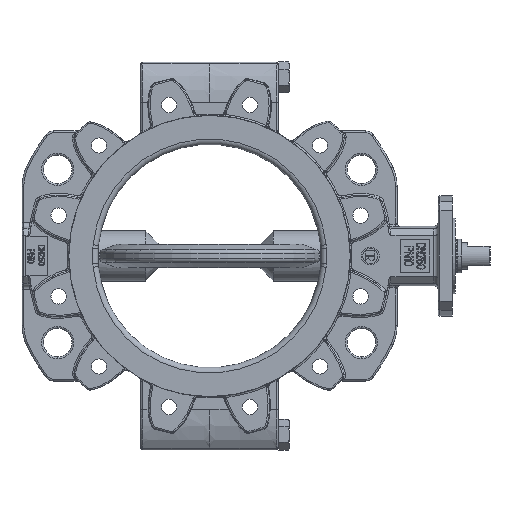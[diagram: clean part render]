
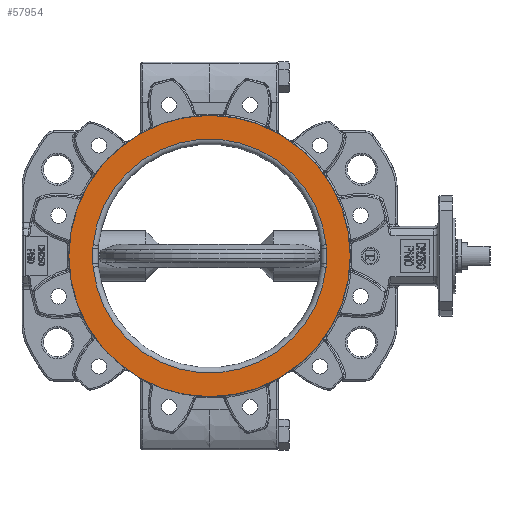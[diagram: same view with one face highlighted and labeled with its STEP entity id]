
A CAD part, front view. The second image highlights one B-rep face of the part: STEP entity #57954.
In plain terms, the highlighted planar face has unit normal (0, -1, 0).
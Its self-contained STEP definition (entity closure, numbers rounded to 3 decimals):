
#4083=CARTESIAN_POINT('',(0.,-34.,0.));
#4084=DIRECTION('',(0.,-1.,0.));
#4085=DIRECTION('',(0.,0.,-1.));
#4086=AXIS2_PLACEMENT_3D('',#4083,#4084,#4085);
#4088=CARTESIAN_POINT('',(0.,-34.,0.));
#4089=DIRECTION('',(0.,1.,0.));
#4090=DIRECTION('',(0.,0.,-1.));
#4091=AXIS2_PLACEMENT_3D('',#4088,#4089,#4090);
#4093=CARTESIAN_POINT('',(0.,-34.,0.));
#4094=DIRECTION('',(0.,1.,0.));
#4095=DIRECTION('',(-0.995,0.,0.096));
#4096=AXIS2_PLACEMENT_3D('',#4093,#4094,#4095);
#4103=CARTESIAN_POINT('',(130.399,-34.,12.536));
#4104=CARTESIAN_POINT('',(130.437,-34.,12.139));
#4105=CARTESIAN_POINT('',(130.5,-34.,11.328));
#4106=CARTESIAN_POINT('',(130.555,-34.,10.066));
#4107=CARTESIAN_POINT('',(130.567,-34.,9.195));
#4108=CARTESIAN_POINT('',(130.567,-34.,8.752));
#4122=DIRECTION('',(0.,0.,-1.));
#4123=VECTOR('',#4122,17.503);
#4124=CARTESIAN_POINT('',(130.567,-34.,8.752));
#4125=LINE('',#4124,#4123);
#4140=CARTESIAN_POINT('',(130.567,-34.,
-8.752));
#4141=CARTESIAN_POINT('',(130.567,-34.,
-9.195));
#4142=CARTESIAN_POINT('',(130.555,-34.,
-10.066));
#4143=CARTESIAN_POINT('',(130.5,-34.,
-11.328));
#4144=CARTESIAN_POINT('',(130.437,-34.,
-12.139));
#4145=CARTESIAN_POINT('',(130.399,-34.,
-12.536));
#4164=CARTESIAN_POINT('',(0.,-34.,0.));
#4165=DIRECTION('',(0.,1.,0.));
#4166=DIRECTION('',(0.995,0.,-0.096));
#4167=AXIS2_PLACEMENT_3D('',#4164,#4165,#4166);
#4436=DIRECTION('',(0.,0.,-1.));
#4437=VECTOR('',#4436,17.503);
#4438=CARTESIAN_POINT('',(-130.567,-34.,
8.752));
#4439=LINE('',#4438,#4437);
#4449=CARTESIAN_POINT('',(-130.399,-34.,
12.536));
#4450=CARTESIAN_POINT('',(-130.437,-34.,
12.139));
#4451=CARTESIAN_POINT('',(-130.5,-34.,
11.328));
#4452=CARTESIAN_POINT('',(-130.555,-34.,
10.066));
#4453=CARTESIAN_POINT('',(-130.567,-34.,
9.195));
#4454=CARTESIAN_POINT('',(-130.567,-34.,
8.752));
#5238=CARTESIAN_POINT('',(-130.567,-34.,
-8.752));
#5239=CARTESIAN_POINT('',(-130.567,-34.,
-9.195));
#5240=CARTESIAN_POINT('',(-130.555,-34.,
-10.066));
#5241=CARTESIAN_POINT('',(-130.5,-34.,
-11.328));
#5242=CARTESIAN_POINT('',(-130.437,-34.,
-12.139));
#5243=CARTESIAN_POINT('',(-130.399,-34.,
-12.536));
#41237=CARTESIAN_POINT('',(0.,-34.,-157.5));
#41238=CARTESIAN_POINT('',(0.,-34.,157.5));
#41239=VERTEX_POINT('',#41237);
#41240=VERTEX_POINT('',#41238);
#41255=CARTESIAN_POINT('',(130.567,-34.,
8.752));
#41256=CARTESIAN_POINT('',(130.567,-34.,
-8.752));
#41257=VERTEX_POINT('',#41255);
#41258=VERTEX_POINT('',#41256);
#41263=VERTEX_POINT('',#4103);
#41275=CARTESIAN_POINT('',(-130.567,-34.,
8.752));
#41276=CARTESIAN_POINT('',(-130.567,-34.,
-8.752));
#41277=VERTEX_POINT('',#41275);
#41278=VERTEX_POINT('',#41276);
#41283=VERTEX_POINT('',#4449);
#41291=CARTESIAN_POINT('',(130.399,-34.,-12.536));
#41292=CARTESIAN_POINT('',(-130.399,-34.,-12.536));
#41293=VERTEX_POINT('',#41291);
#41294=VERTEX_POINT('',#41292);
#57927=CARTESIAN_POINT('',(0.,-34.,0.));
#57928=DIRECTION('',(0.,-1.,0.));
#57929=DIRECTION('',(0.,0.,-1.));
#57930=AXIS2_PLACEMENT_3D('',#57927,#57928,#57929);
#57931=PLANE('',#57930);
#57932=ORIENTED_EDGE('',*,*,#53622,.F.);
#57933=ORIENTED_EDGE('',*,*,#53502,.T.);
#57934=EDGE_LOOP('',(#57932,#57933));
#57935=FACE_OUTER_BOUND('',#57934,.F.);
#57937=ORIENTED_EDGE('',*,*,#57936,.F.);
#57939=ORIENTED_EDGE('',*,*,#57938,.T.);
#57941=ORIENTED_EDGE('',*,*,#57940,.T.);
#57943=ORIENTED_EDGE('',*,*,#57942,.T.);
#57945=ORIENTED_EDGE('',*,*,#57944,.F.);
#57947=ORIENTED_EDGE('',*,*,#57946,.F.);
#57949=ORIENTED_EDGE('',*,*,#57948,.F.);
#57951=ORIENTED_EDGE('',*,*,#57950,.F.);
#57952=EDGE_LOOP('',(#57937,#57939,#57941,#57943,#57945,#57947,#57949,#57951));
#57953=FACE_BOUND('',#57952,.F.);
#57954=ADVANCED_FACE('',(#57935,#57953),#57931,.T.);
#4087=CIRCLE('',#4086,157.5);
#4092=CIRCLE('',#4091,157.5);
#4097=CIRCLE('',#4096,131.);
#4109=B_SPLINE_CURVE_WITH_KNOTS('',3,(#4103,#4104,#4105,#4106,#4107,#4108),
.UNSPECIFIED.,.F.,.F.,(4,1,1,4),(0.,0.333,0.667,1.),
.UNSPECIFIED.);
#4146=B_SPLINE_CURVE_WITH_KNOTS('',3,(#4140,#4141,#4142,#4143,#4144,#4145),
.UNSPECIFIED.,.F.,.F.,(4,1,1,4),(0.,0.333,0.667,1.),
.UNSPECIFIED.);
#4168=CIRCLE('',#4167,131.);
#4455=B_SPLINE_CURVE_WITH_KNOTS('',3,(#4449,#4450,#4451,#4452,#4453,#4454),
.UNSPECIFIED.,.F.,.F.,(4,1,1,4),(0.,0.333,0.667,1.),
.UNSPECIFIED.);
#5244=B_SPLINE_CURVE_WITH_KNOTS('',3,(#5238,#5239,#5240,#5241,#5242,#5243),
.UNSPECIFIED.,.F.,.F.,(4,1,1,4),(0.,0.333,0.667,1.),
.UNSPECIFIED.);
#53502=EDGE_CURVE('',#41239,#41240,#4092,.T.);
#53622=EDGE_CURVE('',#41239,#41240,#4087,.T.);
#57936=EDGE_CURVE('',#41283,#41263,#4097,.T.);
#57938=EDGE_CURVE('',#41283,#41277,#4455,.T.);
#57940=EDGE_CURVE('',#41277,#41278,#4439,.T.);
#57942=EDGE_CURVE('',#41278,#41294,#5244,.T.);
#57944=EDGE_CURVE('',#41293,#41294,#4168,.T.);
#57946=EDGE_CURVE('',#41258,#41293,#4146,.T.);
#57948=EDGE_CURVE('',#41257,#41258,#4125,.T.);
#57950=EDGE_CURVE('',#41263,#41257,#4109,.T.);
